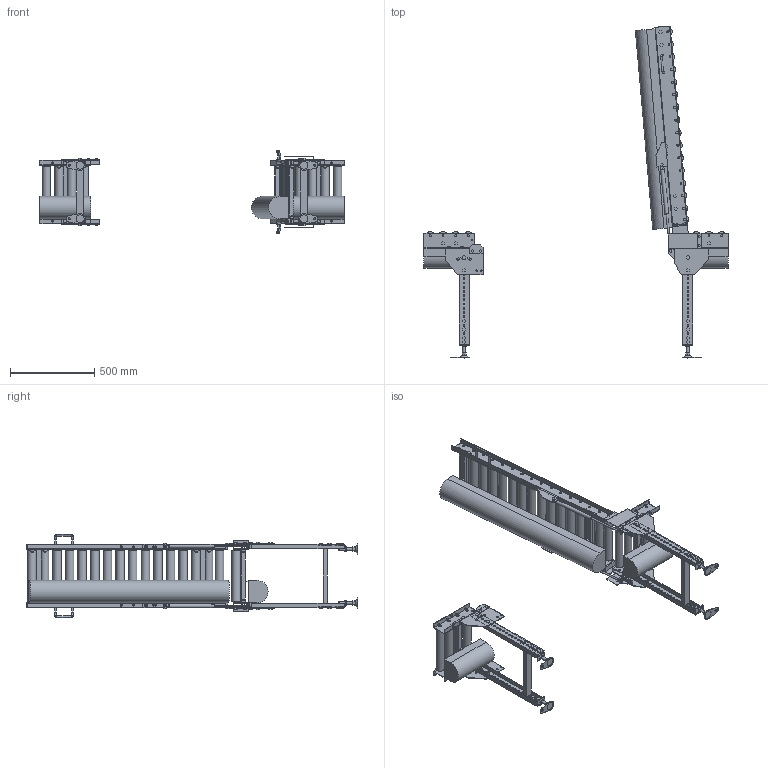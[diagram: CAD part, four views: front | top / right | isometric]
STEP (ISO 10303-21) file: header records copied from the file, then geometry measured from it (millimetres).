
FILE_DESCRIPTION (( 'STEP AP214' ), '1' );
FILE_NAME ('MCD50HU-R-315-75-1200.STEP', '2022-11-17T04:39:36', ( '' ), ( '' ), 'SwSTEP 2.0', 'SolidWorks 2017', '' );
FILE_SCHEMA (( 'AUTOMOTIVE_DESIGN' ));
Length unit declared in the file: millimetre
Products named in the file (1): MCD50HU-R-315-75-1200
Bounding box: 1800 x 1964.71 x 491.4 mm (x, y, z)
Volume: 44969608.2 mm3; surface area: 4563037.3 mm2
Topology: 5 solids, 31 shells, 2662 faces, 6660 edges, 4237 vertices
Faces by surface type: plane 2163, cylinder 481, cone 10, torus 8
Full cylindrical faces by diameter (mm): 8 x8, 8.5 x8, 9 x20, 10 x58, 10.5 x96, 11 x8, 12 x50, 13 x12, 14 x4, 15 x6, 15.4 x2, 15.7 x2, 16 x10, 17 x4, 18 x6, 18.4 x28, 18.5 x8, 21 x12, 22 x2, 50.8 x24
Entity records: 77110 total; most frequent: CARTESIAN_POINT 13166, DIRECTION 12922, ORIENTED_EDGE 12156, EDGE_CURVE 6078, LINE 4552, VECTOR 4552, AXIS2_PLACEMENT_3D 4185, VERTEX_POINT 4041
